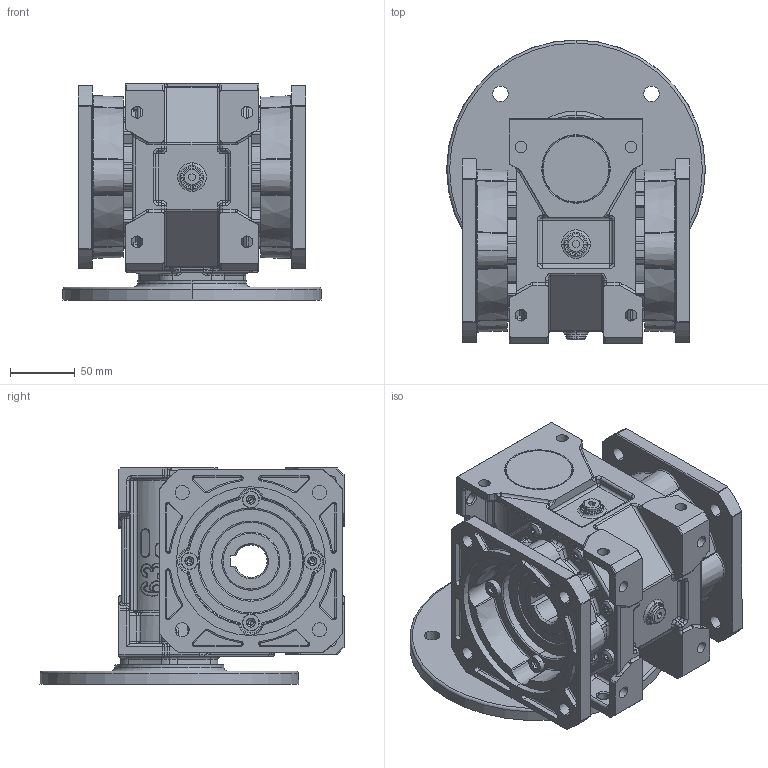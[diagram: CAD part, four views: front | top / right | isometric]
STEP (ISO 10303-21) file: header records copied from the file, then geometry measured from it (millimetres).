
FILE_DESCRIPTION (( 'STEP AP214' ), '1' );
FILE_NAME ('mkt63-90-165-ffrl.step', '2017-09-08T10:29:07', ( '' ), ( '' ), 'SwSTEP 2.0', 'SolidWorks 2016', '' );
FILE_SCHEMA (( 'AUTOMOTIVE_DESIGN' ));
Length unit declared in the file: millimetre
Products named in the file (6): D6912_æroub DIN 6912 - M6x25; mkt63-90-165-ffrl; Skrin MKT63_MKT63 AP90; Pøíruba MRT80 kulatá _130-165-188; Pøíruba FF MKT 63_odlitek; D6912_æroub DIN 6912 - M8x25
Assembly tree (18 placements, depth 2):
  mkt63-90-165-ffrl
    Skrin MKT63_MKT63 AP90
    Pøíruba MRT80 kulatá _130-165-188
    D6912_æroub DIN 6912 - M6x25  x6
    Pøíruba FF MKT 63_odlitek  x2
    D6912_æroub DIN 6912 - M8x25  x8
Bounding box: 200 x 235 x 167 mm (x, y, z)
Volume: 2538242.6 mm3; surface area: 392672.7 mm2
Topology: 18 solids, 18 shells, 2949 faces, 6876 edges, 3977 vertices
Faces by surface type: cylinder 1088, plane 578, torus 551, cone 344, bspline 242, sphere 146
Entity records: 81382 total; most frequent: CARTESIAN_POINT 26777, DIRECTION 11363, ORIENTED_EDGE 10386, EDGE_CURVE 5193, AXIS2_PLACEMENT_3D 4790, VERTEX_POINT 3122, CIRCLE 2794, EDGE_LOOP 2363
